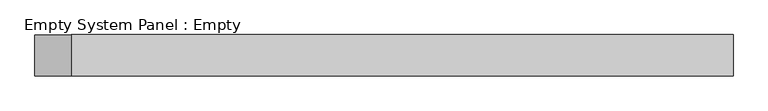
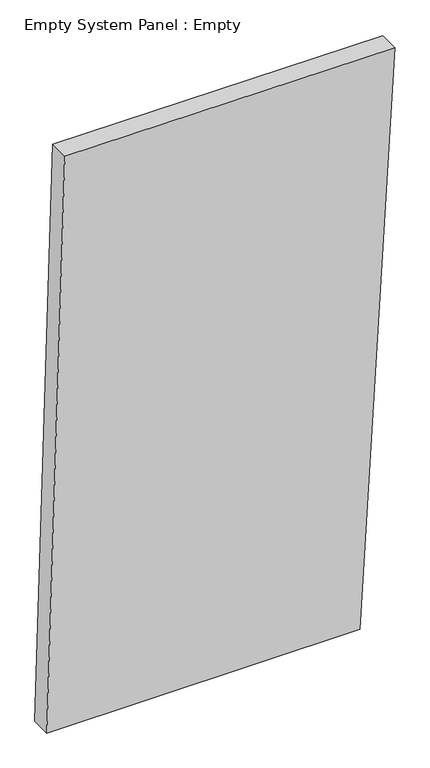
"""IFC4 building model written with IfcOpenShell, lengths in millimetres: plate geometry, Empty System Panel : Empty."""

from ifc_helpers import new_model, si_unit, frame, origin, place, context, project, spatial, polyline, outline, extrude, source, transform, mapped, element, save


def empty_system_panel_empty_48045b3f(model_context):
    return source(origin(), model_context, "Body", "SweptSolid", [
        extrude(outline(polyline([(0.0, -857.8385919), (0.0, 685.0074196), (2967.4973728, 857.8385919), (2971.976668, -768.9758215), (0.0, -857.8385919)])), frame((0.0, -50.8, 0.0), z_axis=(0.0, 1.0, 0.0), x_axis=(0.0, 0.0, 1.0)), (0.0, 0.0, 1.0), 101.6),
    ])


if __name__ == "__main__":
    model = new_model("IFC4")
    model_context = context("Model", 3, world=origin())
    ifc_project = project(units=[si_unit("LENGTHUNIT", "METRE", prefix="MILLI")], contexts=[model_context])
    site = spatial("IfcSite", under=ifc_project)
    building = spatial("IfcBuilding", under=site)
    placement = place(None, origin())
    empty_system_panel_empty_shape = empty_system_panel_empty_48045b3f(model_context)
    element("IfcPlate", 1, ObjectType="Empty System Panel : Empty", at=placement, inside=building, context=model_context, shape_type="MappedRepresentation", body=[
        mapped(empty_system_panel_empty_shape, transform((0.0, 0.0, 0.0), x_axis=(1.0, 0.0, 0.0), y_axis=(0.0, 1.0, 0.0), z_axis=(0.0, 0.0, 1.0))),
    ])
    save(model, "model.ifc")
